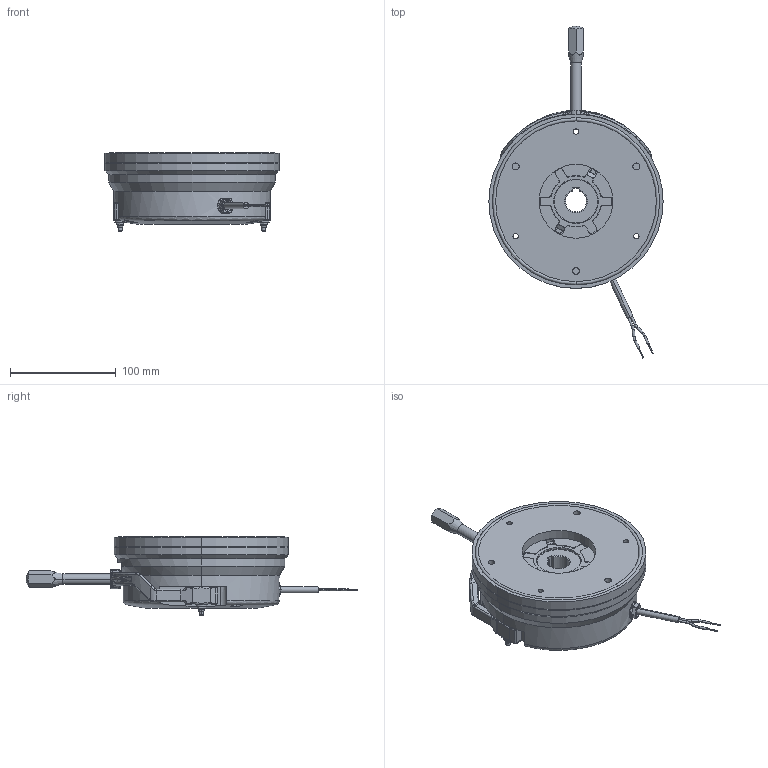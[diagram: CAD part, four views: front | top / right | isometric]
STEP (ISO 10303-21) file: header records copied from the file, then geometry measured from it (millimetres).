
FILE_DESCRIPTION (( 'STEP AP214' ), '1' );
FILE_NAME ('dr_bk_0528-hftw_mu.STEP', '2021-11-26T06:53:58', ( '' ), ( '' ), 'SwSTEP 2.0', 'SolidWorks 2019', '' );
FILE_SCHEMA (( 'AUTOMOTIVE_DESIGN' ));
Length unit declared in the file: millimetre
Products named in the file (11): 10068416_000; 10069340_000; 10069310_000; 10069347_000_A 25 x 42 x 7; 10068418_000; 10069333_000; 10068415_000; 10068626_000_eingebaut - Nutbreite 2,4mm; dr_bk_0528-hftw_mu; 10068414_000; 10068626_000
Assembly tree (12 placements, depth 2):
  dr_bk_0528-hftw_mu
    10069333_000
    10068414_000  x3
    10068415_000
    10068626_000_eingebaut - Nutbreite 2,4mm
    10068416_000
    10068418_000
    10069310_000
    10069340_000
    10068626_000
    10069347_000_A 25 x 42 x 7
Bounding box: 165 x 314.27 x 74.3 mm (x, y, z)
Volume: 1063745.4 mm3; surface area: 239809.4 mm2
Topology: 29 solids, 29 shells, 1206 faces, 2849 edges, 1704 vertices
Faces by surface type: cylinder 471, plane 309, bspline 152, cone 112, torus 111, sphere 51
Entity records: 54970 total; most frequent: CARTESIAN_POINT 19462, DIRECTION 5504, ORIENTED_EDGE 5472, EDGE_CURVE 2736, AXIS2_PLACEMENT_3D 2261, VERTEX_POINT 1651, EDGE_LOOP 1273, CIRCLE 1226
